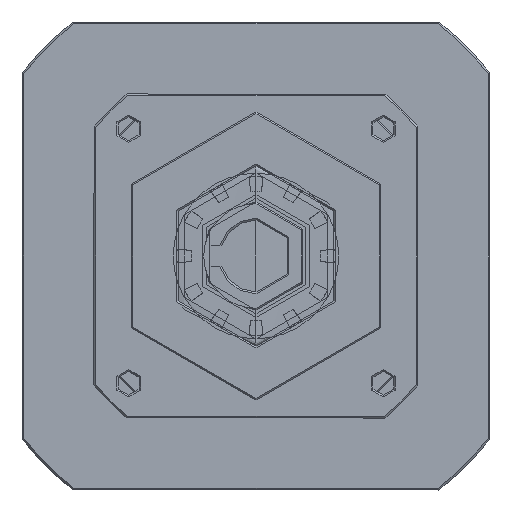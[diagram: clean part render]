
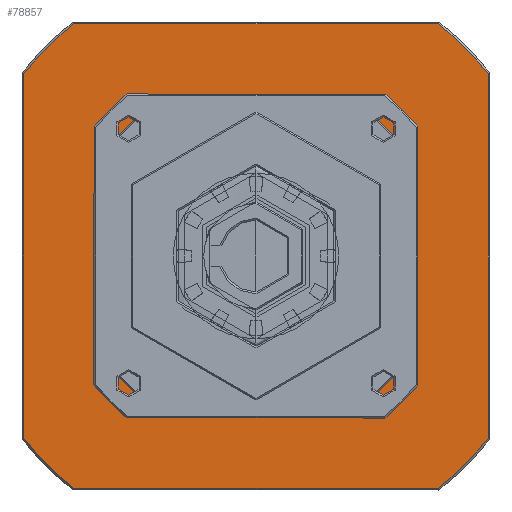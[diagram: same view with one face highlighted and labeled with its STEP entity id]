
A CAD part, left-side view. The second image highlights one B-rep face of the part: STEP entity #78857.
In plain terms, the highlighted planar face has unit normal (-1, 0, 0).
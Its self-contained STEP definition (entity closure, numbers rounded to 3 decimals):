
#1195 = EDGE_LOOP ( 'NONE', ( #38078, #28465, #44158, #41936, #59934, #17894, #85436, #62183 ) ) ;
#1906 = DIRECTION ( 'NONE',  ( 1., 0., 0. ) ) ;
#2483 = CARTESIAN_POINT ( 'NONE',  ( 124.5, -50.633, -64.5 ) ) ;
#2810 = DIRECTION ( 'NONE',  ( 0., 0., 1. ) ) ;
#2974 = EDGE_CURVE ( 'NONE', #35499, #3773, #70055, .T. ) ;
#3773 = VERTEX_POINT ( 'NONE', #12983 ) ;
#3880 = EDGE_CURVE ( 'NONE', #11101, #70535, #28925, .T. ) ;
#4204 = ORIENTED_EDGE ( 'NONE', *, *, #83404, .T. ) ;
#5381 = CARTESIAN_POINT ( 'NONE',  ( 124.5, -50.633, 64.5 ) ) ;
#5583 = VECTOR ( 'NONE', #16112, 1000. ) ;
#5688 = VERTEX_POINT ( 'NONE', #13217 ) ;
#6378 = VERTEX_POINT ( 'NONE', #2483 ) ;
#6681 = LINE ( 'NONE', #84888, #5583 ) ;
#6902 = CIRCLE ( 'NONE', #84403, 82. ) ;
#7422 = VECTOR ( 'NONE', #62037, 1000. ) ;
#7567 = CARTESIAN_POINT ( 'NONE',  ( 124.5, 44.5, -23.875 ) ) ;
#7767 = VERTEX_POINT ( 'NONE', #80734 ) ;
#8125 = ORIENTED_EDGE ( 'NONE', *, *, #25199, .T. ) ;
#9799 = PLANE ( 'NONE',  #68260 ) ;
#10543 = DIRECTION ( 'NONE',  ( -1., 0., 0. ) ) ;
#11101 = VERTEX_POINT ( 'NONE', #77838 ) ;
#11139 = CARTESIAN_POINT ( 'NONE',  ( 124.5, 0., 0. ) ) ;
#11678 = EDGE_CURVE ( 'NONE', #5688, #15033, #56016, .T. ) ;
#12358 = EDGE_CURVE ( 'NONE', #11101, #74607, #48990, .T. ) ;
#12888 = CARTESIAN_POINT ( 'NONE',  ( 124.5, 23.875, 44.5 ) ) ;
#12926 = CIRCLE ( 'NONE', #73122, 82. ) ;
#12983 = CARTESIAN_POINT ( 'NONE',  ( 124.5, -23.875, -44.5 ) ) ;
#13198 = CIRCLE ( 'NONE', #41361, 50.5 ) ;
#13217 = CARTESIAN_POINT ( 'NONE',  ( 124.5, 64.5, 50.633 ) ) ;
#13421 = DIRECTION ( 'NONE',  ( 0., 0., 1. ) ) ;
#15033 = VERTEX_POINT ( 'NONE', #31133 ) ;
#15894 = AXIS2_PLACEMENT_3D ( 'NONE', #50482, #29393, #49311 ) ;
#16112 = DIRECTION ( 'NONE',  ( 0., -1., 0. ) ) ;
#16441 = CARTESIAN_POINT ( 'NONE',  ( 124.5, -64.5, 64.5 ) ) ;
#16784 = DIRECTION ( 'NONE',  ( -1., 0., 0. ) ) ;
#17894 = ORIENTED_EDGE ( 'NONE', *, *, #2974, .F. ) ;
#18881 = AXIS2_PLACEMENT_3D ( 'NONE', #35097, #1906, #57083 ) ;
#19751 = ORIENTED_EDGE ( 'NONE', *, *, #23157, .T. ) ;
#20464 = CARTESIAN_POINT ( 'NONE',  ( 124.5, 0., 64.5 ) ) ;
#20550 = CIRCLE ( 'NONE', #44224, 50.5 ) ;
#21792 = CARTESIAN_POINT ( 'NONE',  ( 124.5, 23.875, -44.5 ) ) ;
#22895 = DIRECTION ( 'NONE',  ( 0., 1., 0. ) ) ;
#23157 = EDGE_CURVE ( 'NONE', #15033, #32125, #6902, .T. ) ;
#23214 = CARTESIAN_POINT ( 'NONE',  ( 124.5, 0., 44.5 ) ) ;
#23235 = CARTESIAN_POINT ( 'NONE',  ( 124.5, -44.5, 23.875 ) ) ;
#23791 = ORIENTED_EDGE ( 'NONE', *, *, #61804, .T. ) ;
#24321 = CARTESIAN_POINT ( 'NONE',  ( 124.5, 0., 0. ) ) ;
#25199 = EDGE_CURVE ( 'NONE', #6378, #60451, #89281, .T. ) ;
#25791 = CARTESIAN_POINT ( 'NONE',  ( 124.5, -64.5, -50.633 ) ) ;
#26721 = CIRCLE ( 'NONE', #15894, 82. ) ;
#26801 = VECTOR ( 'NONE', #22895, 1000. ) ;
#28465 = ORIENTED_EDGE ( 'NONE', *, *, #3880, .F. ) ;
#28925 = LINE ( 'NONE', #23214, #26801 ) ;
#29192 = VECTOR ( 'NONE', #35112, 1000. ) ;
#29238 = DIRECTION ( 'NONE',  ( 0., 0., -1. ) ) ;
#29393 = DIRECTION ( 'NONE',  ( -1., 0., 0. ) ) ;
#31082 = EDGE_CURVE ( 'NONE', #7767, #70535, #35088, .T. ) ;
#31133 = CARTESIAN_POINT ( 'NONE',  ( 124.5, 64.5, -50.633 ) ) ;
#32125 = VERTEX_POINT ( 'NONE', #56092 ) ;
#32637 = DIRECTION ( 'NONE',  ( 0., 0., -1. ) ) ;
#33352 = LINE ( 'NONE', #75247, #84054 ) ;
#33681 = ORIENTED_EDGE ( 'NONE', *, *, #69425, .T. ) ;
#34430 = LINE ( 'NONE', #20464, #7422 ) ;
#35088 = CIRCLE ( 'NONE', #18881, 50.5 ) ;
#35097 = CARTESIAN_POINT ( 'NONE',  ( 124.5, 0., 0. ) ) ;
#35112 = DIRECTION ( 'NONE',  ( 0., 0., 1. ) ) ;
#35499 = VERTEX_POINT ( 'NONE', #21792 ) ;
#35698 = CARTESIAN_POINT ( 'NONE',  ( 124.5, -64.5, 0. ) ) ;
#37419 = VECTOR ( 'NONE', #32637, 1000. ) ;
#38078 = ORIENTED_EDGE ( 'NONE', *, *, #31082, .T. ) ;
#38577 = CARTESIAN_POINT ( 'NONE',  ( 124.5, 0., -44.5 ) ) ;
#38858 = EDGE_CURVE ( 'NONE', #7767, #46504, #78021, .T. ) ;
#39251 = CARTESIAN_POINT ( 'NONE',  ( 124.5, 64.5, 0. ) ) ;
#39517 = DIRECTION ( 'NONE',  ( 0., 0., 1. ) ) ;
#39815 = CARTESIAN_POINT ( 'NONE',  ( 124.5, 0., 0. ) ) ;
#41361 = AXIS2_PLACEMENT_3D ( 'NONE', #39815, #80839, #39517 ) ;
#41936 = ORIENTED_EDGE ( 'NONE', *, *, #47833, .F. ) ;
#43869 = DIRECTION ( 'NONE',  ( 0., 0., -1. ) ) ;
#44158 = ORIENTED_EDGE ( 'NONE', *, *, #12358, .T. ) ;
#44224 = AXIS2_PLACEMENT_3D ( 'NONE', #57978, #79734, #2810 ) ;
#44455 = DIRECTION ( 'NONE',  ( 1., 0., 0. ) ) ;
#44801 = DIRECTION ( 'NONE',  ( 0., 0., -1. ) ) ;
#46504 = VERTEX_POINT ( 'NONE', #7567 ) ;
#47136 = EDGE_LOOP ( 'NONE', ( #23791, #65946, #19751, #33681, #8125, #78705, #4204, #60354 ) ) ;
#47833 = EDGE_CURVE ( 'NONE', #52846, #74607, #33352, .T. ) ;
#48990 = CIRCLE ( 'NONE', #88163, 50.5 ) ;
#49311 = DIRECTION ( 'NONE',  ( 0., 0., -1. ) ) ;
#50482 = CARTESIAN_POINT ( 'NONE',  ( 124.5, 0., 0. ) ) ;
#52846 = VERTEX_POINT ( 'NONE', #66921 ) ;
#53288 = EDGE_CURVE ( 'NONE', #60451, #83796, #86435, .T. ) ;
#53425 = EDGE_CURVE ( 'NONE', #3773, #52846, #20550, .T. ) ;
#56016 = LINE ( 'NONE', #39251, #37419 ) ;
#56092 = CARTESIAN_POINT ( 'NONE',  ( 124.5, 50.633, -64.5 ) ) ;
#57074 = VECTOR ( 'NONE', #87510, 1000. ) ;
#57083 = DIRECTION ( 'NONE',  ( 0., 0., 1. ) ) ;
#57978 = CARTESIAN_POINT ( 'NONE',  ( 124.5, 0., 0. ) ) ;
#58661 = VERTEX_POINT ( 'NONE', #5381 ) ;
#58688 = CARTESIAN_POINT ( 'NONE',  ( 124.5, 0., 0. ) ) ;
#59374 = DIRECTION ( 'NONE',  ( 0., 0., -1. ) ) ;
#59934 = ORIENTED_EDGE ( 'NONE', *, *, #53425, .F. ) ;
#60354 = ORIENTED_EDGE ( 'NONE', *, *, #82983, .T. ) ;
#60451 = VERTEX_POINT ( 'NONE', #25791 ) ;
#61804 = EDGE_CURVE ( 'NONE', #81031, #5688, #26721, .T. ) ;
#62037 = DIRECTION ( 'NONE',  ( 0., 1., 0. ) ) ;
#62183 = ORIENTED_EDGE ( 'NONE', *, *, #38858, .F. ) ;
#64822 = AXIS2_PLACEMENT_3D ( 'NONE', #11139, #10543, #59374 ) ;
#65411 = FACE_OUTER_BOUND ( 'NONE', #47136, .T. ) ;
#65946 = ORIENTED_EDGE ( 'NONE', *, *, #11678, .T. ) ;
#66921 = CARTESIAN_POINT ( 'NONE',  ( 124.5, -44.5, -23.875 ) ) ;
#68260 = AXIS2_PLACEMENT_3D ( 'NONE', #16441, #44455, #43869 ) ;
#69425 = EDGE_CURVE ( 'NONE', #32125, #6378, #6681, .T. ) ;
#70055 = LINE ( 'NONE', #38577, #57074 ) ;
#70535 = VERTEX_POINT ( 'NONE', #12888 ) ;
#71236 = DIRECTION ( 'NONE',  ( 0., 0., -1. ) ) ;
#73122 = AXIS2_PLACEMENT_3D ( 'NONE', #24321, #16784, #44801 ) ;
#74607 = VERTEX_POINT ( 'NONE', #23235 ) ;
#75247 = CARTESIAN_POINT ( 'NONE',  ( 124.5, -44.5, 0. ) ) ;
#77838 = CARTESIAN_POINT ( 'NONE',  ( 124.5, -23.875, 44.5 ) ) ;
#77861 = CARTESIAN_POINT ( 'NONE',  ( 124.5, 44.5, 0. ) ) ;
#78021 = LINE ( 'NONE', #77861, #80200 ) ;
#78393 = CARTESIAN_POINT ( 'NONE',  ( 124.5, 0., 0. ) ) ;
#78705 = ORIENTED_EDGE ( 'NONE', *, *, #53288, .T. ) ;
#78857 = ADVANCED_FACE ( 'NONE', ( #83779, #65411 ), #9799, .F. ) ;
#79734 = DIRECTION ( 'NONE',  ( -1., 0., 0. ) ) ;
#79810 = DIRECTION ( 'NONE',  ( 0., 0., 1. ) ) ;
#80000 = CARTESIAN_POINT ( 'NONE',  ( 124.5, -64.5, 50.633 ) ) ;
#80111 = DIRECTION ( 'NONE',  ( 1., 0., 0. ) ) ;
#80200 = VECTOR ( 'NONE', #71236, 1000. ) ;
#80734 = CARTESIAN_POINT ( 'NONE',  ( 124.5, 44.5, 23.875 ) ) ;
#80839 = DIRECTION ( 'NONE',  ( -1., 0., 0. ) ) ;
#81031 = VERTEX_POINT ( 'NONE', #88820 ) ;
#82983 = EDGE_CURVE ( 'NONE', #58661, #81031, #34430, .T. ) ;
#83404 = EDGE_CURVE ( 'NONE', #83796, #58661, #12926, .T. ) ;
#83779 = FACE_BOUND ( 'NONE', #1195, .T. ) ;
#83796 = VERTEX_POINT ( 'NONE', #80000 ) ;
#84054 = VECTOR ( 'NONE', #13421, 1000. ) ;
#84403 = AXIS2_PLACEMENT_3D ( 'NONE', #78393, #85337, #29238 ) ;
#84888 = CARTESIAN_POINT ( 'NONE',  ( 124.5, 0., -64.5 ) ) ;
#85337 = DIRECTION ( 'NONE',  ( -1., 0., 0. ) ) ;
#85436 = ORIENTED_EDGE ( 'NONE', *, *, #86460, .F. ) ;
#86435 = LINE ( 'NONE', #35698, #29192 ) ;
#86460 = EDGE_CURVE ( 'NONE', #46504, #35499, #13198, .T. ) ;
#87510 = DIRECTION ( 'NONE',  ( 0., -1., 0. ) ) ;
#88163 = AXIS2_PLACEMENT_3D ( 'NONE', #58688, #80111, #79810 ) ;
#88820 = CARTESIAN_POINT ( 'NONE',  ( 124.5, 50.633, 64.5 ) ) ;
#89281 = CIRCLE ( 'NONE', #64822, 82. ) ;
